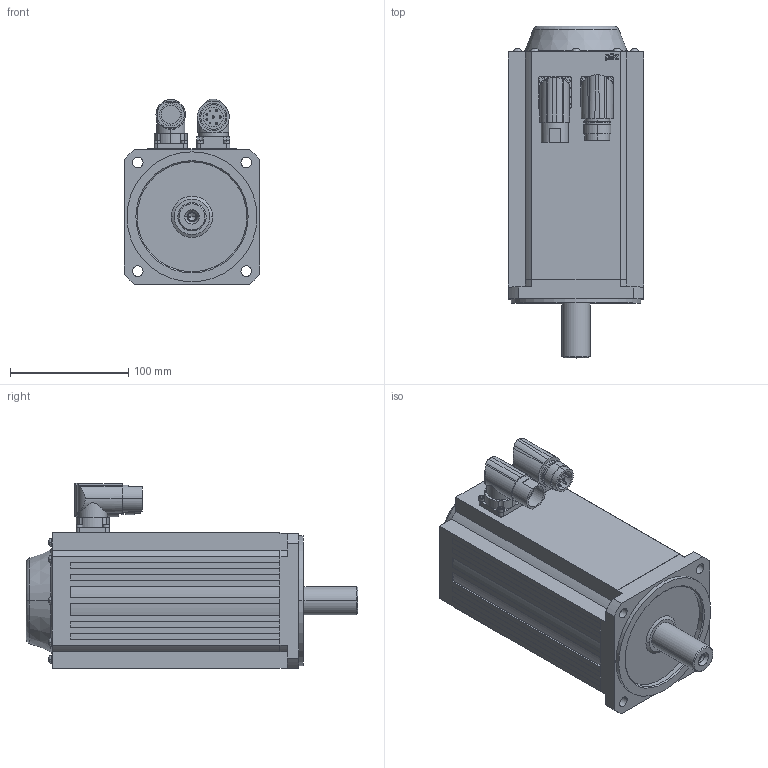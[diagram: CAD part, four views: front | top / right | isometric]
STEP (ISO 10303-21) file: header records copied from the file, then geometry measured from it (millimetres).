
FILE_DESCRIPTION((''),'2;1');
FILE_NAME('2031368','2021-08-27T08:32:29',('s.mayer'),(''),'CREO PARAMETRIC BY PTC INC, 2019292','CREO PARAMETRIC BY PTC INC, 2019292','');
FILE_SCHEMA(('AUTOMOTIVE_DESIGN { 1 0 10303 214 1 1 1 1 }'));
Length unit declared in the file: millimetre
Products named in the file (1): 2031368
Bounding box: 115 x 281 x 157 mm (x, y, z)
Volume: 2634011.1 mm3; surface area: 149912.7 mm2
Topology: 1 solids, 1 shells, 547 faces, 1383 edges, 896 vertices
Faces by surface type: plane 343, cylinder 150, cone 28, bspline 20, torus 6
Entity records: 21950 total; most frequent: CARTESIAN_POINT 4305, ORIENTED_EDGE 2752, DIRECTION 2688, PRESENTATION_STYLE_ASSIGNMENT 1388, STYLED_ITEM 1383, CURVE_STYLE 1382, EDGE_CURVE 1376, VECTOR 930
